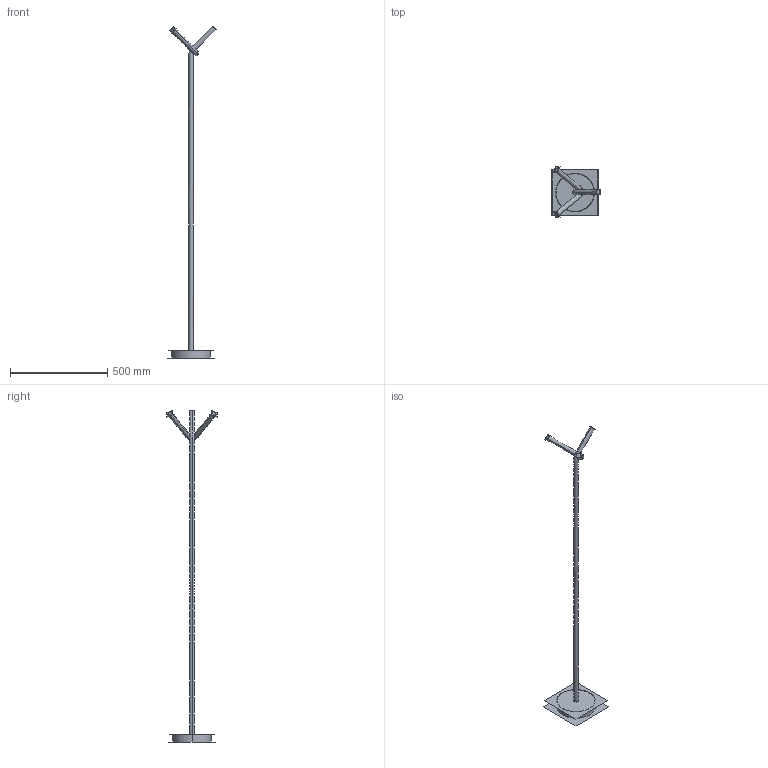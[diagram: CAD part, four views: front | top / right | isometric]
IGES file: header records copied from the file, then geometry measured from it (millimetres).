
Global section: file name: C:\Users\utente\Desktop\3d sito\BINCAN APPENDIABITI\bincan appendiabiti.igs; native system: Rhinoceros ( Mar  9 2011 ); preprocessor: Trout Lake IGES 012 Mar  9 2011; date: 170517.153606; units: millimetre
Bounding box: 250.22 x 258.67 x 1710.11 mm (x, y, z)
Surface area: 308301.6 mm2 (no closed solid volume)
Topology: 0 solids, 0 shells, 19 faces, 76 edges, 76 vertices
Faces by surface type: bspline 19
